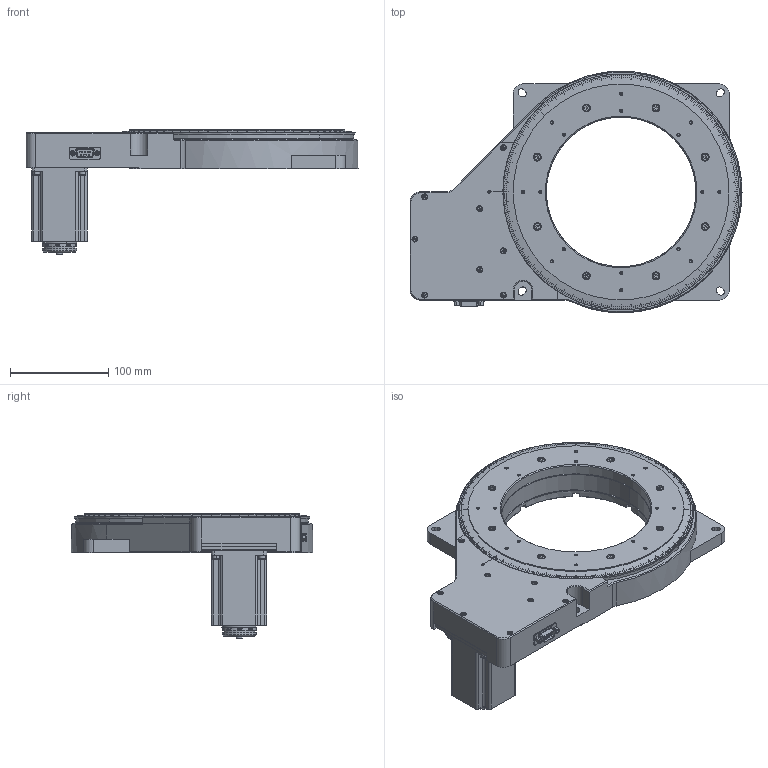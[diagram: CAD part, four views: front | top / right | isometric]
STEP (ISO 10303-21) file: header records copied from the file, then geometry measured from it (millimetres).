
FILE_DESCRIPTION((''),'2;1');
FILE_NAME('8MRB240-152-59D 3D.stp','2017-10-26T15:08:30',(''),(''),'Mechanical Desktop 2011','Mechanical Desktop 2011',', , ');
FILE_SCHEMA(('CONFIG_CONTROL_DESIGN'));
Length unit declared in the file: millimetre
Products named in the file (1): Product
Bounding box: 338 x 246 x 127 mm (x, y, z)
Volume: 1356234.1 mm3; surface area: 316993.4 mm2
Topology: 1 solids, 32 shells, 3496 faces, 9911 edges, 6526 vertices
Faces by surface type: plane 2271, bspline 589, cylinder 420, cone 142, torus 56, sphere 18
Entity records: 212378 total; most frequent: CARTESIAN_POINT 124986, ORIENTED_EDGE 19614, DIRECTION 16698, EDGE_CURVE 9807, VERTEX_POINT 6526, VECTOR 5672, LINE 5672, AXIS2_PLACEMENT_3D 5513
